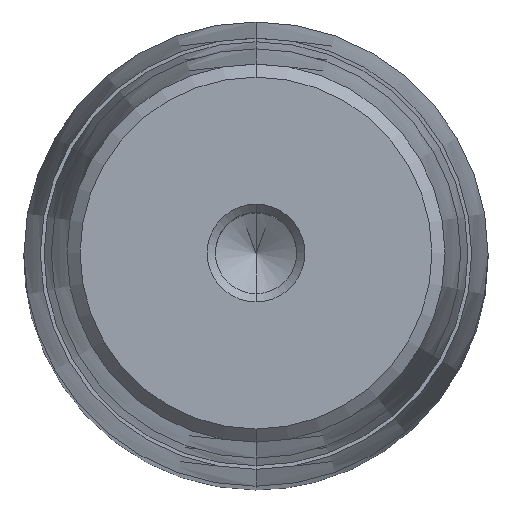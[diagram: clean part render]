
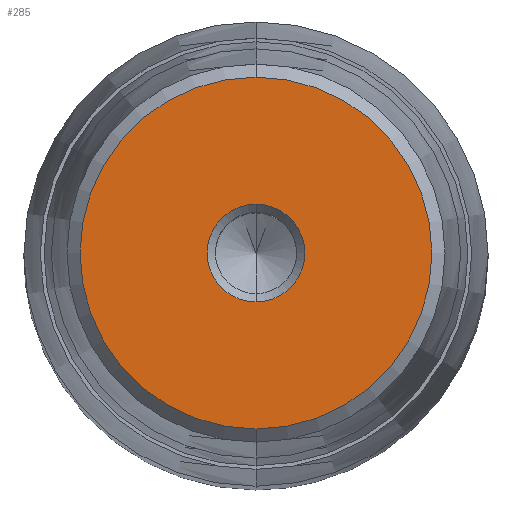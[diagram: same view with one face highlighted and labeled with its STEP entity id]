
A CAD part, top view. The second image highlights one B-rep face of the part: STEP entity #285.
In plain terms, the highlighted planar face has unit normal (0, 0, 1).
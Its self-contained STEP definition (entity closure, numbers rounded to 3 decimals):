
#164=CARTESIAN_POINT('Axis2P3D Location',(0.,0.,48.)) ;
#168=CARTESIAN_POINT('Vertex',(4.,0.,48.)) ;
#170=CARTESIAN_POINT('Vertex',(0.,-4.,48.)) ;
#173=CARTESIAN_POINT('Axis2P3D Location',(0.,0.,48.)) ;
#177=CARTESIAN_POINT('Vertex',(0.,4.,48.)) ;
#228=CARTESIAN_POINT('Axis2P3D Location',(0.,4.,48.)) ;
#233=CARTESIAN_POINT('Axis2P3D Location',(0.,0.,48.)) ;
#237=CARTESIAN_POINT('Vertex',(0.,14.4,48.)) ;
#239=CARTESIAN_POINT('Vertex',(14.4,0.,48.)) ;
#242=CARTESIAN_POINT('Axis2P3D Location',(0.,0.,48.)) ;
#246=CARTESIAN_POINT('Vertex',(-14.4,0.,48.)) ;
#249=CARTESIAN_POINT('Axis2P3D Location',(0.,0.,48.)) ;
#253=CARTESIAN_POINT('Vertex',(0.,-14.4,48.)) ;
#256=CARTESIAN_POINT('Axis2P3D Location',(0.,0.,48.)) ;
#267=CARTESIAN_POINT('Axis2P3D Location',(0.,0.,48.)) ;
#271=CARTESIAN_POINT('Vertex',(-4.,0.,48.)) ;
#274=CARTESIAN_POINT('Axis2P3D Location',(0.,0.,48.)) ;
#165=DIRECTION('Axis2P3D Direction',(-0.,0.,1.)) ;
#174=DIRECTION('Axis2P3D Direction',(-0.,0.,1.)) ;
#229=DIRECTION('Axis2P3D Direction',(0.,0.,-1.)) ;
#230=DIRECTION('Axis2P3D XDirection',(0.,1.,0.)) ;
#234=DIRECTION('Axis2P3D Direction',(0.,0.,-1.)) ;
#243=DIRECTION('Axis2P3D Direction',(0.,0.,-1.)) ;
#250=DIRECTION('Axis2P3D Direction',(0.,0.,-1.)) ;
#257=DIRECTION('Axis2P3D Direction',(0.,0.,-1.)) ;
#268=DIRECTION('Axis2P3D Direction',(0.,0.,-1.)) ;
#275=DIRECTION('Axis2P3D Direction',(0.,0.,-1.)) ;
#166=AXIS2_PLACEMENT_3D('Circle Axis2P3D',#164,#165,$) ;
#175=AXIS2_PLACEMENT_3D('Circle Axis2P3D',#173,#174,$) ;
#231=AXIS2_PLACEMENT_3D('Plane Axis2P3D',#228,#229,#230) ;
#235=AXIS2_PLACEMENT_3D('Circle Axis2P3D',#233,#234,$) ;
#244=AXIS2_PLACEMENT_3D('Circle Axis2P3D',#242,#243,$) ;
#251=AXIS2_PLACEMENT_3D('Circle Axis2P3D',#249,#250,$) ;
#258=AXIS2_PLACEMENT_3D('Circle Axis2P3D',#256,#257,$) ;
#269=AXIS2_PLACEMENT_3D('Circle Axis2P3D',#267,#268,$) ;
#276=AXIS2_PLACEMENT_3D('Circle Axis2P3D',#274,#275,$) ;
#262=ORIENTED_EDGE('',*,*,#241,.F.) ;
#263=ORIENTED_EDGE('',*,*,#248,.F.) ;
#264=ORIENTED_EDGE('',*,*,#255,.F.) ;
#265=ORIENTED_EDGE('',*,*,#260,.F.) ;
#280=ORIENTED_EDGE('',*,*,#172,.T.) ;
#281=ORIENTED_EDGE('',*,*,#273,.T.) ;
#282=ORIENTED_EDGE('',*,*,#278,.T.) ;
#283=ORIENTED_EDGE('',*,*,#179,.T.) ;
#284=FACE_BOUND('',#279,.T.) ;
#285=ADVANCED_FACE('722-38x200x233',(#266,#284),#232,.F.) ;
#167=CIRCLE('generated circle',#166,4.) ;
#176=CIRCLE('generated circle',#175,4.) ;
#236=CIRCLE('generated circle',#235,14.4) ;
#245=CIRCLE('generated circle',#244,14.4) ;
#252=CIRCLE('generated circle',#251,14.4) ;
#259=CIRCLE('generated circle',#258,14.4) ;
#270=CIRCLE('generated circle',#269,4.) ;
#277=CIRCLE('generated circle',#276,4.) ;
#172=EDGE_CURVE('',#169,#171,#167,.F.) ;
#179=EDGE_CURVE('',#178,#169,#176,.F.) ;
#241=EDGE_CURVE('',#238,#240,#236,.T.) ;
#248=EDGE_CURVE('',#247,#238,#245,.T.) ;
#255=EDGE_CURVE('',#254,#247,#252,.T.) ;
#260=EDGE_CURVE('',#240,#254,#259,.T.) ;
#273=EDGE_CURVE('',#171,#272,#270,.T.) ;
#278=EDGE_CURVE('',#272,#178,#277,.T.) ;
#261=EDGE_LOOP('',(#262,#263,#264,#265)) ;
#279=EDGE_LOOP('',(#280,#281,#282,#283)) ;
#266=FACE_OUTER_BOUND('',#261,.T.) ;
#232=PLANE('Plane',#231) ;
#169=VERTEX_POINT('',#168) ;
#171=VERTEX_POINT('',#170) ;
#178=VERTEX_POINT('',#177) ;
#238=VERTEX_POINT('',#237) ;
#240=VERTEX_POINT('',#239) ;
#247=VERTEX_POINT('',#246) ;
#254=VERTEX_POINT('',#253) ;
#272=VERTEX_POINT('',#271) ;
